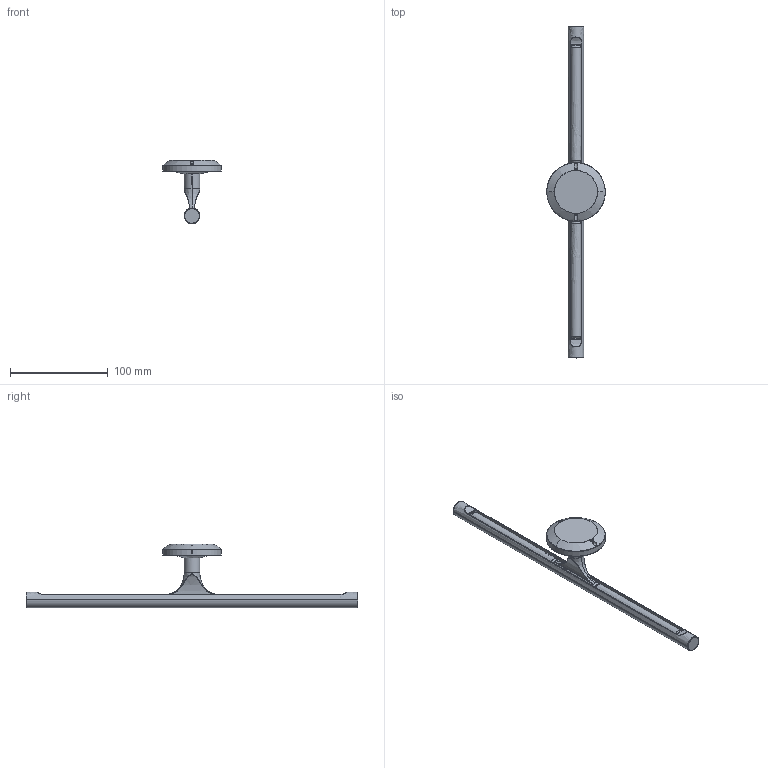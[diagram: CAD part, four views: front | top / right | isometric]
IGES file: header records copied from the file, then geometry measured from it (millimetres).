
Start section: SolidWorks IGES file using analytic representation for surfaces
Global section: file name: C:\Users\scott\Dropbox\Rakumba Industrial Design\PRODUCT\2 DEVELOPMENT\GALLERY\CAD\Gallery Lightweight CAD\Gallery - 340 Wall Lamp.IGS; native system: SolidWorks 2017; preprocessor: SolidWorks 2017; author: scott; date: 240403.174521; units: millimetre
Bounding box: 60 x 340 x 65 mm (x, y, z)
Surface area: 38553.3 mm2 (no closed solid volume)
Topology: 0 solids, 0 shells, 214 faces, 3259 edges, 3253 vertices
Faces by surface type: bspline 137, revolution 77
